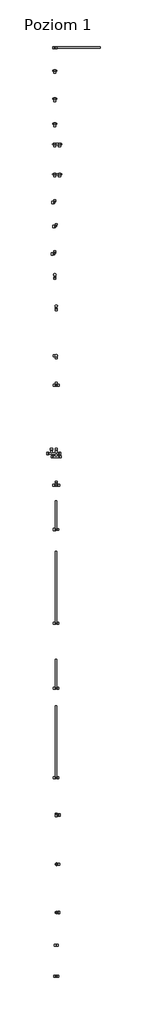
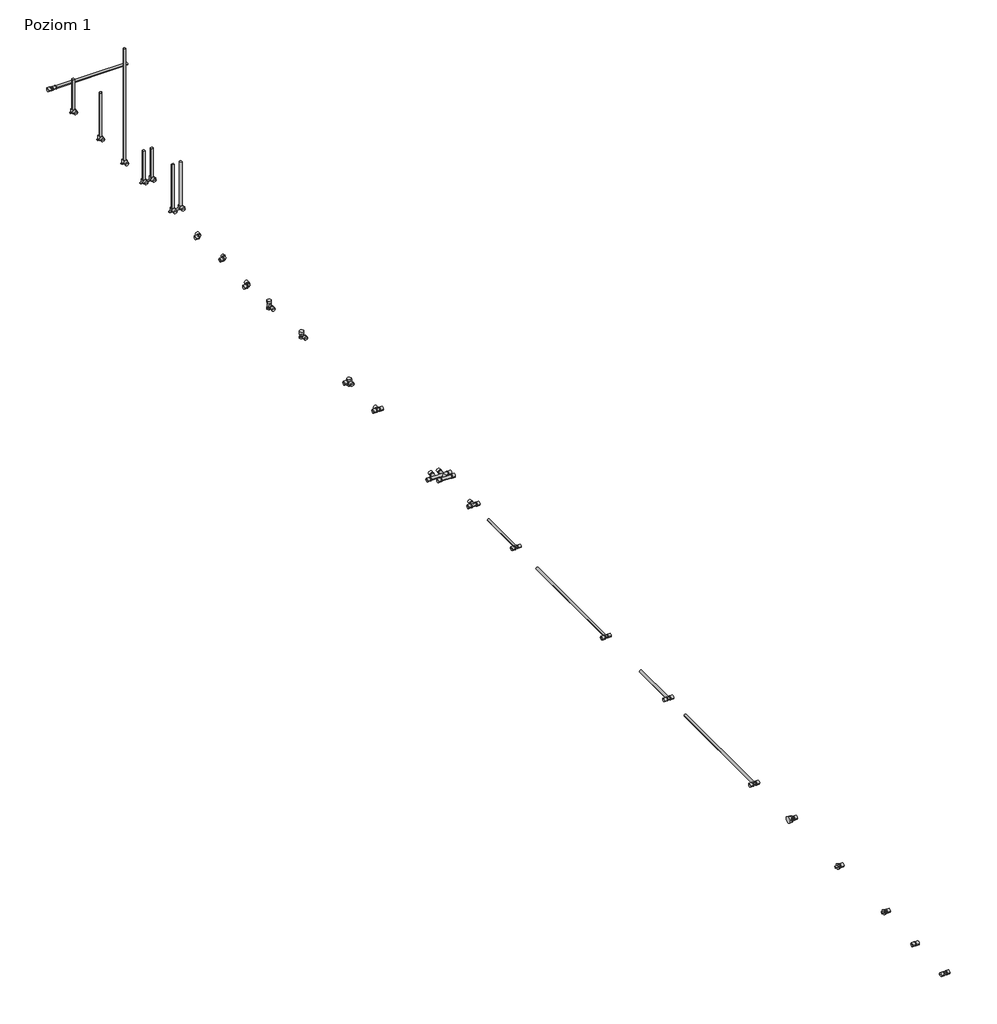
# One storey, incomplete: 24 pipe fittings.
"""IFC4 building model written with IfcOpenShell, lengths in millimetres."""

from ifc_helpers import new_model, si_unit, origin, place, context, project, spatial, transform, mapped, element, save
from components import pipe_fitting_b7bc9902, pipe_fitting_e040945a, pipe_fitting_42ea6e93, pipe_fitting_182be3bf, pipe_fitting_f2d528ed, pipe_fitting_952cee33, pipe_fitting_1cb3a0dc, pipe_fitting_71039134, pipe_fitting_d25bedc2, pipe_fitting_20f2416b, pipe_fitting_8b100cbf, pipe_fitting_04f32304, pipe_fitting_6474cc42, pipe_fitting_632f2332, pipe_fitting_9f7363b6, pipe_fitting_bddaeb39, pipe_fitting_2eb1ac7f, pipe_fitting_55ffaf2d, pipe_fitting_d329eff9, pipe_fitting_58463357, pipe_fitting_f6f2416c, pipe_fitting_cfe5aa1c, pipe_fitting_43363160, pipe_fitting_3afa9204

model = new_model("IFC4")

# Units and contexts
model_context = context("Model", 3, world=origin())
ifc_project = project(units=[si_unit("LENGTHUNIT", "METRE", prefix="MILLI")], contexts=[model_context])

# Site, building, storey
site = spatial("IfcSite", under=ifc_project)
building = spatial("IfcBuilding", under=site)
storey = spatial("IfcBuildingStorey", under=building, Name="Poziom 1", Elevation=0.0)

# Pipe fittings
placement = place(None, origin())
pipe_fitting_shape = pipe_fitting_b7bc9902(model_context)
element("IfcPipeFitting", 1, ObjectType="KAN-therm Push 18x2 złączka z gz 1-2 : KAN-therm Push 18x2 złączka z gz 1-2", at=placement, inside=storey, context=model_context, shape_type="MappedRepresentation", body=[
    mapped(pipe_fitting_shape, transform((-814.0709163, 10618.3605197, 0.0), x_axis=(1.0, 0.0, 0.0), y_axis=(0.0, 1.0, 0.0), z_axis=(0.0, 0.0, 1.0))),
])
pipe_fitting_2_shape = pipe_fitting_e040945a(model_context)
element("IfcPipeFitting", 2, ObjectType="KAN-therm Push 18x2 element połaczeniowy do grzejnika : KAN-therm Push 18x2 element połaczeniowy do grzejnika", at=placement, inside=storey, context=model_context, shape_type="MappedRepresentation", body=[
    mapped(pipe_fitting_2_shape, transform((-829.0776626, 19658.8641221, 0.0), x_axis=(1.0, 0.0, 0.0), y_axis=(0.0, 1.0, 0.0), z_axis=(0.0, 0.0, 1.0))),
])
pipe_fitting_3_shape = pipe_fitting_42ea6e93(model_context)
element("IfcPipeFitting", 3, ObjectType="KAN-therm Push 18x2 kolanko z rurą Cu15 ze wspornikiem L=210 : KAN-therm Push 18x2 kolanko z rurą Cu15 ze wspornikiem L=210", at=placement, inside=storey, context=model_context, shape_type="MappedRepresentation", body=[
    mapped(pipe_fitting_3_shape, transform((-829.0776626, 19419.6754404, 0.0), x_axis=(1.0, 0.0, 0.0), y_axis=(0.0, 1.0, 0.0), z_axis=(0.0, 0.0, 1.0))),
])
pipe_fitting_4_shape = pipe_fitting_182be3bf(model_context)
element("IfcPipeFitting", 4, ObjectType="KAN-therm Push 18x2 kolanko z rurą Cu15 ze wspornikiem L=300 : KAN-therm Push 18x2 kolanko z rurą Cu15 ze wspornikiem L=300", at=placement, inside=storey, context=model_context, shape_type="MappedRepresentation", body=[
    mapped(pipe_fitting_4_shape, transform((-829.0776626, 19124.0010004, 0.0), x_axis=(1.0, 0.0, 0.0), y_axis=(0.0, 1.0, 0.0), z_axis=(0.0, 0.0, 1.0))),
])
pipe_fitting_5_shape = pipe_fitting_f2d528ed(model_context)
element("IfcPipeFitting", 5, ObjectType="KAN-therm Push 18x2 kolanko z rurą Cu15 ze wspornikiem L=750 : KAN-therm Push 18x2 kolanko z rurą Cu15 ze wspornikiem L=750", at=placement, inside=storey, context=model_context, shape_type="MappedRepresentation", body=[
    mapped(pipe_fitting_5_shape, transform((-829.0776626, 18862.1593532, 0.0), x_axis=(1.0, 0.0, 0.0), y_axis=(0.0, 1.0, 0.0), z_axis=(0.0, 0.0, 1.0))),
])
pipe_fitting_6_shape = pipe_fitting_952cee33(model_context)
element("IfcPipeFitting", 6, ObjectType="KAN-therm Push 18x2 kolanko zespolone ze wspornikiem L=200 : KAN-therm Push 18x2 kolanko zespolone ze wspornikiem L=200", at=placement, inside=storey, context=model_context, shape_type="MappedRepresentation", body=[
    mapped(pipe_fitting_6_shape, transform((-829.0776626, 18651.1518298, 0.0), x_axis=(1.0, 0.0, 0.0), y_axis=(0.0, 1.0, 0.0), z_axis=(0.0, 0.0, 1.0))),
])
pipe_fitting_7_shape = pipe_fitting_1cb3a0dc(model_context)
element("IfcPipeFitting", 7, ObjectType="KAN-therm Push 18x2 kolanko zespolone ze wspornikiem L=300 : KAN-therm Push 18x2 kolanko zespolone ze wspornikiem L=300", at=placement, inside=storey, context=model_context, shape_type="MappedRepresentation", body=[
    mapped(pipe_fitting_7_shape, transform((-829.0776626, 18335.8532315, 0.0), x_axis=(1.0, 0.0, 0.0), y_axis=(0.0, 1.0, 0.0), z_axis=(0.0, 0.0, 1.0))),
])
pipe_fitting_8_shape = pipe_fitting_71039134(model_context)
element("IfcPipeFitting", 8, ObjectType="KAN-therm Push 18x2 kolano gz 1-2 : KAN-therm Push 18x2 kolano gz 1-2", at=placement, inside=storey, context=model_context, shape_type="MappedRepresentation", body=[
    mapped(pipe_fitting_8_shape, transform((-814.0709163, 17790.1441193, 0.0), x_axis=(1.0, 0.0, 0.0), y_axis=(0.0, 1.0, 0.0), z_axis=(0.0, 0.0, 1.0))),
])
pipe_fitting_9_shape = pipe_fitting_d25bedc2(model_context)
element("IfcPipeFitting", 9, ObjectType="KAN-therm Push 18x2 kolano PPSU : KAN-therm Push 18x2 kolano PPSU", at=placement, inside=storey, context=model_context, shape_type="MappedRepresentation", body=[
    mapped(pipe_fitting_9_shape, transform((-829.0776626, 17501.5246332, 0.0), x_axis=(1.0, 0.0, 0.0), y_axis=(0.0, 1.0, 0.0), z_axis=(0.0, 0.0, 1.0))),
])
pipe_fitting_10_shape = pipe_fitting_20f2416b(model_context)
element("IfcPipeFitting", 10, ObjectType="KAN-therm Push 18x2 kolano : KAN-therm Push 18x2 kolano", at=placement, inside=storey, context=model_context, shape_type="MappedRepresentation", body=[
    mapped(pipe_fitting_10_shape, transform((-829.0776626, 18039.957624, 0.0), x_axis=(1.0, 0.0, 0.0), y_axis=(0.0, 1.0, 0.0), z_axis=(0.0, 0.0, 1.0))),
])
pipe_fitting_11_shape = pipe_fitting_8b100cbf(model_context)
element("IfcPipeFitting", 11, ObjectType="KAN-therm Push 18x2 łącznik PPSU : KAN-therm Push 18x2 łącznik PPSU", at=placement, inside=storey, context=model_context, shape_type="MappedRepresentation", body=[
    mapped(pipe_fitting_11_shape, transform((-814.0709163, 9950.3843592, 0.0), x_axis=(1.0, 0.0, 0.0), y_axis=(0.0, 1.0, 0.0), z_axis=(0.0, 0.0, 1.0))),
])
pipe_fitting_12_shape = pipe_fitting_04f32304(model_context)
element("IfcPipeFitting", 12, ObjectType="KAN-therm Push 18x2 łącznik : KAN-therm Push 18x2 łącznik", at=placement, inside=storey, context=model_context, shape_type="MappedRepresentation", body=[
    mapped(pipe_fitting_12_shape, transform((-814.0709163, 10274.0429112, 0.0), x_axis=(1.0, 0.0, 0.0), y_axis=(0.0, 1.0, 0.0), z_axis=(0.0, 0.0, 1.0))),
])
pipe_fitting_13_shape = pipe_fitting_6474cc42(model_context)
element("IfcPipeFitting", 13, ObjectType="KAN-therm Push 18x2 podejście do baterii długie : KAN-therm Push 18x2 podejście do baterii długie", at=placement, inside=storey, context=model_context, shape_type="MappedRepresentation", body=[
    mapped(pipe_fitting_13_shape, transform((-829.0776626, 17285.6663621, 0.0), x_axis=(1.0, 0.0, 0.0), y_axis=(0.0, 1.0, 0.0), z_axis=(0.0, 0.0, 1.0))),
])
pipe_fitting_14_shape = pipe_fitting_632f2332(model_context)
element("IfcPipeFitting", 14, ObjectType="KAN-therm Push 18x2 podejście do baterii krótkie : KAN-therm Push 18x2 podejście do baterii krótkie", at=placement, inside=storey, context=model_context, shape_type="MappedRepresentation", body=[
    mapped(pipe_fitting_14_shape, transform((-814.0709163, 16958.2408947, 0.0), x_axis=(1.0, 0.0, 0.0), y_axis=(0.0, 1.0, 0.0), z_axis=(0.0, 0.0, 1.0))),
])
pipe_fitting_15_shape = pipe_fitting_9f7363b6(model_context)
element("IfcPipeFitting", 15, ObjectType="KAN-therm Push 18x2 podejście kątowe do baterii : KAN-therm Push 18x2 podejście kątowe do baterii", at=placement, inside=storey, context=model_context, shape_type="MappedRepresentation", body=[
    mapped(pipe_fitting_15_shape, transform((-814.0709163, 16439.2108946, 0.0), x_axis=(1.0, 0.0, 0.0), y_axis=(0.0, 1.0, 0.0), z_axis=(0.0, 0.0, 1.0))),
])
pipe_fitting_16_shape = pipe_fitting_bddaeb39(model_context)
element("IfcPipeFitting", 16, ObjectType="KAN-therm Push 18x2 trójnik mijankowy : KAN-therm Push 18x2 trójnik mijankowy", at=placement, inside=storey, context=model_context, shape_type="MappedRepresentation", body=[
    mapped(pipe_fitting_16_shape, transform((-814.0709163, 15381.7479037, 0.0), x_axis=(1.0, 0.0, 0.0), y_axis=(0.0, 1.0, 0.0), z_axis=(0.0, 0.0, 1.0))),
])
pipe_fitting_17_shape = pipe_fitting_2eb1ac7f(model_context)
element("IfcPipeFitting", 17, ObjectType="KAN-therm Push 18x2 trójnik PPSU : KAN-therm Push 18x2 trójnik PPSU", at=placement, inside=storey, context=model_context, shape_type="MappedRepresentation", body=[
    mapped(pipe_fitting_17_shape, transform((-814.0709163, 15085.083281, 0.0), x_axis=(1.0, 0.0, 0.0), y_axis=(0.0, 1.0, 0.0), z_axis=(0.0, 0.0, 1.0))),
])
pipe_fitting_18_shape = pipe_fitting_55ffaf2d(model_context)
element("IfcPipeFitting", 18, ObjectType="KAN-therm Push 18x2 trójnik redukcyjny z rurą Cu15 L=300 : KAN-therm Push 18x2 trójnik redukcyjny z rurą Cu15 L=300", at=placement, inside=storey, context=model_context, shape_type="MappedRepresentation", body=[
    mapped(pipe_fitting_18_shape, transform((-814.0709163, 14621.836879, 0.0), x_axis=(1.0, 0.0, 0.0), y_axis=(0.0, 1.0, 0.0), z_axis=(0.0, 0.0, 1.0))),
])
pipe_fitting_19_shape = pipe_fitting_d329eff9(model_context)
element("IfcPipeFitting", 19, ObjectType="KAN-therm Push 18x2 trójnik redukcyjny z rurą Cu15 L=750 : KAN-therm Push 18x2 trójnik redukcyjny z rurą Cu15 L=750", at=placement, inside=storey, context=model_context, shape_type="MappedRepresentation", body=[
    mapped(pipe_fitting_19_shape, transform((-814.0709163, 13641.9858507, 0.0), x_axis=(1.0, 0.0, 0.0), y_axis=(0.0, 1.0, 0.0), z_axis=(0.0, 0.0, 1.0))),
])
pipe_fitting_20_shape = pipe_fitting_58463357(model_context)
element("IfcPipeFitting", 20, ObjectType="KAN-therm Push 18x2 trójnik z rurą Cu15 L=300 : KAN-therm Push 18x2 trójnik z rurą Cu15 L=300", at=placement, inside=storey, context=model_context, shape_type="MappedRepresentation", body=[
    mapped(pipe_fitting_20_shape, transform((-814.0709163, 12963.6267149, 0.0), x_axis=(1.0, 0.0, 0.0), y_axis=(0.0, 1.0, 0.0), z_axis=(0.0, 0.0, 1.0))),
])
pipe_fitting_21_shape = pipe_fitting_f6f2416c(model_context)
element("IfcPipeFitting", 21, ObjectType="KAN-therm Push 18x2 trójnik z rurą Cu15 L=750 : KAN-therm Push 18x2 trójnik z rurą Cu15 L=750", at=placement, inside=storey, context=model_context, shape_type="MappedRepresentation", body=[
    mapped(pipe_fitting_21_shape, transform((-814.0709163, 12027.7226504, 0.0), x_axis=(1.0, 0.0, 0.0), y_axis=(0.0, 1.0, 0.0), z_axis=(0.0, 0.0, 1.0))),
])
pipe_fitting_22_shape = pipe_fitting_cfe5aa1c(model_context)
element("IfcPipeFitting", 22, ObjectType="KAN-therm Push 18x2 trójnik : KAN-therm Push 18x2 trójnik", at=placement, inside=storey, context=model_context, shape_type="MappedRepresentation", body=[
    mapped(pipe_fitting_22_shape, transform((-814.0709163, 16128.7630441, 0.0), x_axis=(1.0, 0.0, 0.0), y_axis=(0.0, 1.0, 0.0), z_axis=(0.0, 0.0, 1.0))),
])
pipe_fitting_23_shape = pipe_fitting_43363160(model_context)
element("IfcPipeFitting", 23, ObjectType="KAN-therm Push 18x2 złączka PPSU z gw : KAN-therm Push 18x2 złączka PPSU z gw", at=placement, inside=storey, context=model_context, shape_type="MappedRepresentation", body=[
    mapped(pipe_fitting_23_shape, transform((-814.0709163, 11637.540641, 0.0), x_axis=(1.0, 0.0, 0.0), y_axis=(0.0, 1.0, 0.0), z_axis=(0.0, 0.0, 1.0))),
])
pipe_fitting_24_shape = pipe_fitting_3afa9204(model_context)
element("IfcPipeFitting", 24, ObjectType="KAN-therm Push 18x2 złączka z gw 1-2 : KAN-therm Push 18x2 złączka z gw 1-2", at=placement, inside=storey, context=model_context, shape_type="MappedRepresentation", body=[
    mapped(pipe_fitting_24_shape, transform((-814.0709163, 11121.0642282, 0.0), x_axis=(1.0, 0.0, 0.0), y_axis=(0.0, 1.0, 0.0), z_axis=(0.0, 0.0, 1.0))),
])

save(model, "model.ifc")
